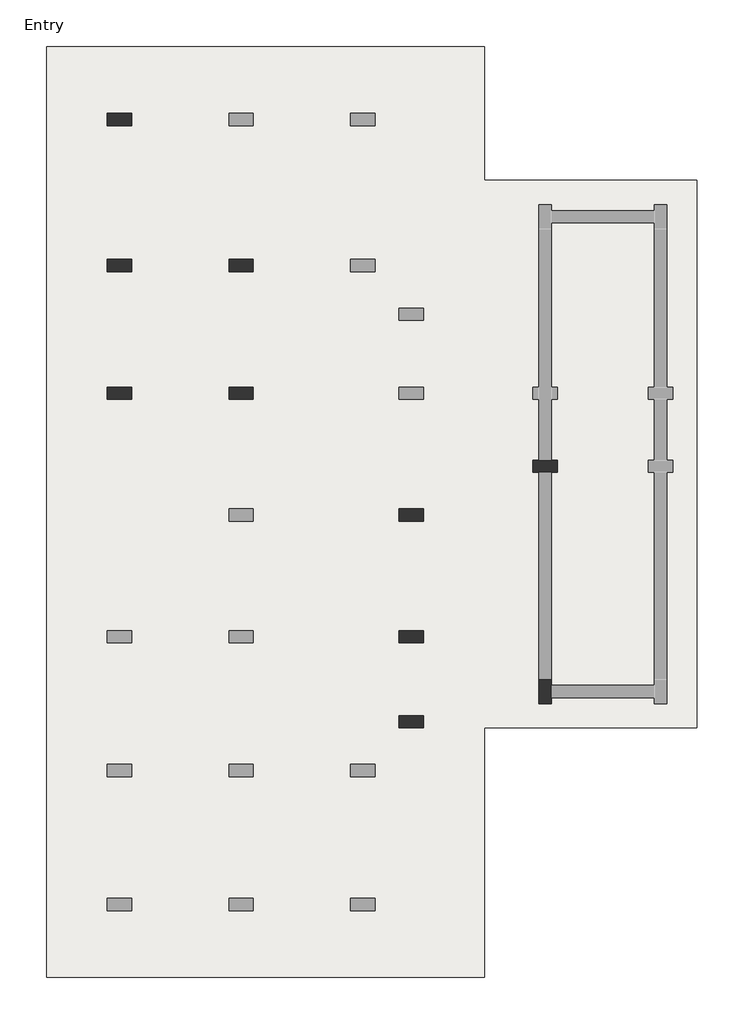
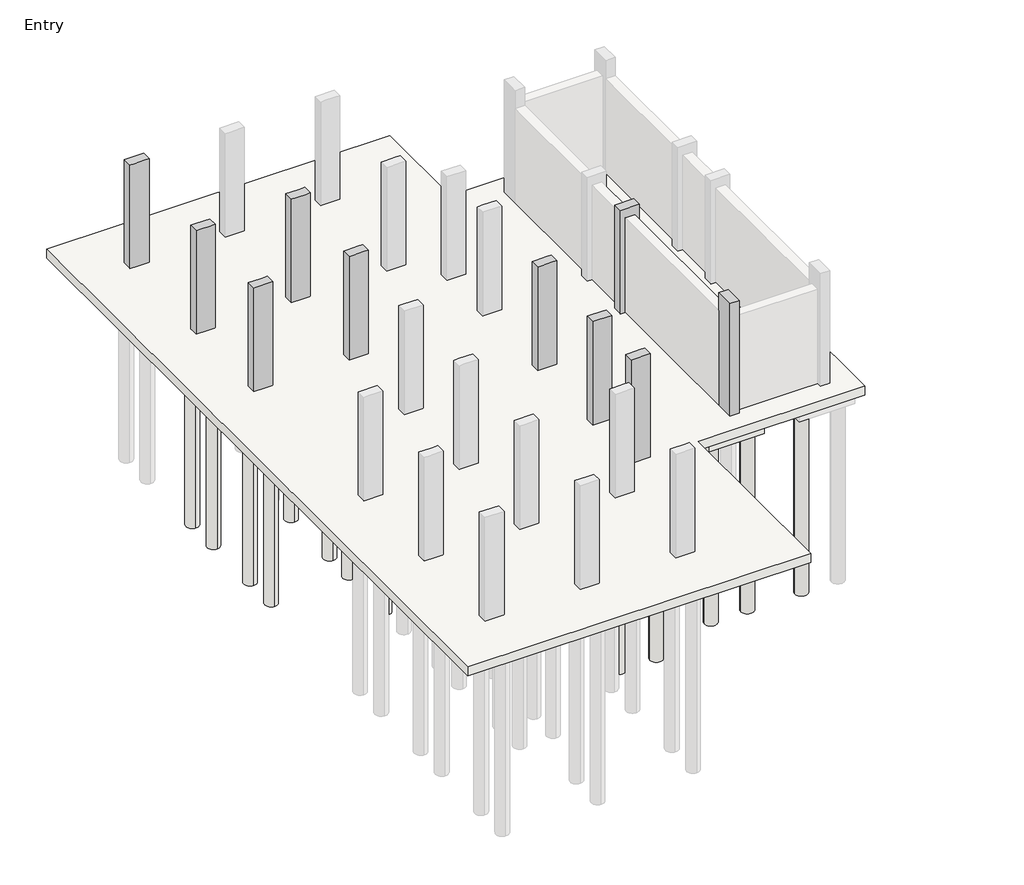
# One storey, part 2 of 3: 35 slabs, 10 columns.
"""IFC4 building model written with IfcOpenShell, lengths in millimetres."""

from ifc_helpers import new_model, si_unit, point, frame, frame_2d, origin, place, context, project, spatial, polyline, circle_curve, trimmed, segment, composite_curve, outline, extrude, faceted_brep, element, save

model = new_model("IFC4")

# Units and contexts
model_context = context("Model", 3, world=origin())
ifc_project = project(units=[si_unit("LENGTHUNIT", "METRE", prefix="MILLI")], contexts=[model_context])

# Site, building, storey
site = spatial("IfcSite", under=ifc_project)
building = spatial("IfcBuilding", under=site)
storey = spatial("IfcBuildingStorey", under=building, Name="Entry", Elevation=0.0)

# Columns
placement = place(None, origin())
element("IfcColumn", 1, ObjectType="Concrete-Rectangular-Column : 12 x 24", at=placement, inside=storey, context=model_context, shape_type="Brep", body=[
    faceted_brep([(-13471.1073204, 23769.0572372, 0.0), (-12861.5073204, 23769.0572372, 0.0), (-12861.5073204, 23464.2572372, 0.0), (-13471.1073204, 23464.2572372, 0.0), (-13471.1073204, 23769.0572372, 3505.2), (-12861.5073204, 23769.0572372, 3505.2), (-12861.5073204, 23769.0572372, 2895.6), (-12861.5073204, 23464.2572372, 3505.2), (-12861.5073204, 23464.2572372, 2895.6), (-13013.9073204, 23464.2572372, 3505.2), (-13318.7073204, 23464.2572372, 3505.2), (-13471.1073204, 23464.2572372, 3505.2)], [[[0, 1, 2, 3]], [[4, 5, 6, 1, 0]], [[5, 7, 8, 2, 1, 6]], [[7, 9, 10, 11, 3, 2, 8]], [[11, 4, 0, 3]], [[4, 11, 10, 9, 7, 5]]]),
])
element("IfcColumn", 2, ObjectType="Concrete-Rectangular-Column : 12 x 24", at=placement, inside=storey, context=model_context, shape_type="Brep", body=[
    faceted_brep([(-13471.1073204, 20111.4572372, 0.0), (-12861.5073204, 20111.4572372, 0.0), (-12861.5073204, 19806.6572372, 0.0), (-13471.1073204, 19806.6572372, 0.0), (-13471.1073204, 20111.4572372, 3505.2), (-13318.7073204, 20111.4572372, 3505.2), (-13013.9073204, 20111.4572372, 3505.2), (-12861.5073204, 20111.4572372, 3505.2), (-12861.5073204, 20111.4572372, 2895.6), (-12861.5073204, 19806.6572372, 3505.2), (-12861.5073204, 19806.6572372, 2895.6), (-13013.9073204, 19806.6572372, 3505.2), (-13318.7073204, 19806.6572372, 3505.2), (-13471.1073204, 19806.6572372, 3505.2)], [[[0, 1, 2, 3]], [[4, 5, 6, 7, 8, 1, 0]], [[7, 9, 10, 2, 1, 8]], [[9, 11, 12, 13, 3, 2, 10]], [[13, 4, 0, 3]], [[4, 13, 12, 11, 9, 7, 6, 5]]]),
])
element("IfcColumn", 3, ObjectType="Concrete-Rectangular-Column : 12 x 24", at=placement, inside=storey, context=model_context, shape_type="Brep", body=[
    faceted_brep([(-10423.1073204, 20111.4572372, 0.0), (-9813.5073204, 20111.4572372, 0.0), (-9813.5073204, 19806.6572372, 0.0), (-10423.1073204, 19806.6572372, 0.0), (-10423.1073204, 20111.4572372, 3505.2), (-10270.7073204, 20111.4572372, 3505.2), (-9965.9073204, 20111.4572372, 3505.2), (-9813.5073204, 20111.4572372, 3505.2), (-9813.5073204, 20111.4572372, 2895.6), (-10423.1073204, 20111.4572372, 2895.6), (-9813.5073204, 19806.6572372, 3505.2), (-9813.5073204, 19806.6572372, 2895.6), (-9965.9073204, 19806.6572372, 3505.2), (-10270.7073204, 19806.6572372, 3505.2), (-10423.1073204, 19806.6572372, 3505.2), (-10423.1073204, 19806.6572372, 2895.6)], [[[0, 1, 2, 3]], [[4, 5, 6, 7, 8, 1, 0, 9]], [[7, 10, 11, 2, 1, 8]], [[10, 12, 13, 14, 15, 3, 2, 11]], [[14, 4, 9, 0, 3, 15]], [[4, 14, 13, 12, 10, 7, 6, 5]]]),
])
element("IfcColumn", 4, ObjectType="Concrete-Rectangular-Column : 12 x 24", at=placement, inside=storey, context=model_context, shape_type="Brep", body=[
    faceted_brep([(-13471.1073204, 16911.0572372, 0.0), (-12861.5073204, 16911.0572372, 0.0), (-12861.5073204, 16606.2572372, 0.0), (-13471.1073204, 16606.2572372, 0.0), (-13471.1073204, 16911.0572372, 3505.2), (-13318.7073204, 16911.0572372, 3505.2), (-13013.9073204, 16911.0572372, 3505.2), (-12861.5073204, 16911.0572372, 3505.2), (-12861.5073204, 16911.0572372, 2895.6), (-12861.5073204, 16606.2572372, 3505.2), (-12861.5073204, 16606.2572372, 2895.6), (-13471.1073204, 16606.2572372, 3505.2)], [[[0, 1, 2, 3]], [[4, 5, 6, 7, 8, 1, 0]], [[7, 9, 10, 2, 1, 8]], [[9, 11, 3, 2, 10]], [[11, 4, 0, 3]], [[4, 11, 9, 7, 6, 5]]]),
])
element("IfcColumn", 5, ObjectType="Concrete-Rectangular-Column : 12 x 24", at=placement, inside=storey, context=model_context, shape_type="Brep", body=[
    faceted_brep([(-10423.1073204, 16911.0572372, 0.0), (-9813.5073204, 16911.0572372, 0.0), (-9813.5073204, 16606.2572372, 0.0), (-10423.1073204, 16606.2572372, 0.0), (-10423.1073204, 16911.0572372, 3505.2), (-10270.7073204, 16911.0572372, 3505.2), (-9965.9073204, 16911.0572372, 3505.2), (-9813.5073204, 16911.0572372, 3505.2), (-9813.5073204, 16911.0572372, 2895.6), (-10423.1073204, 16911.0572372, 2895.6), (-9813.5073204, 16606.2572372, 3505.2), (-9813.5073204, 16606.2572372, 2895.6), (-9965.9073204, 16606.2572372, 3505.2), (-10270.7073204, 16606.2572372, 3505.2), (-10423.1073204, 16606.2572372, 3505.2), (-10423.1073204, 16606.2572372, 2895.6)], [[[0, 1, 2, 3]], [[4, 5, 6, 7, 8, 1, 0, 9]], [[7, 10, 11, 2, 1, 8]], [[10, 12, 13, 14, 15, 3, 2, 11]], [[14, 4, 9, 0, 3, 15]], [[4, 14, 13, 12, 10, 7, 6, 5]]]),
])
element("IfcColumn", 6, ObjectType="Concrete-Rectangular-Column : 12 x 24", at=placement, inside=storey, context=model_context, shape_type="Brep", body=[
    faceted_brep([(-2803.8500241, 15082.2572372, 0.0), (-2651.4500241, 15082.2572372, 0.0), (-2346.6500241, 15082.2572372, 0.0), (-2194.2500241, 15082.2572372, 0.0), (-2194.2500241, 14777.4572372, 0.0), (-2346.6500241, 14777.4572372, 0.0), (-2651.4500241, 14777.4572372, 0.0), (-2803.8500241, 14777.4572372, 0.0), (-2803.8500241, 15082.2572372, 3505.2), (-2194.2500241, 15082.2572372, 3505.2), (-2194.2500241, 14777.4572372, 3505.2), (-2803.8500241, 14777.4572372, 3505.2)], [[[0, 1, 2, 3, 4, 5, 6, 7]], [[3, 2, 1, 0, 8, 9]], [[4, 3, 9, 10]], [[7, 6, 5, 4, 10, 11]], [[0, 7, 11, 8]], [[9, 8, 11, 10]]]),
])
element("IfcColumn", 7, ObjectType="Concrete-Rectangular-Column : 12 x 24", at=placement, inside=storey, context=model_context, shape_type="Brep", body=[
    faceted_brep([(-6156.6500241, 13863.0572372, 0.0), (-5547.0500241, 13863.0572372, 0.0), (-5547.0500241, 13558.2572372, 0.0), (-6156.6500241, 13558.2572372, 0.0), (-6156.6500241, 13863.0572372, 3505.2), (-6004.2500241, 13863.0572372, 3505.2), (-5699.4500241, 13863.0572372, 3505.2), (-5547.0500241, 13863.0572372, 3505.2), (-6156.6500241, 13863.0572372, 2895.6), (-5547.0500241, 13558.2572372, 3505.2), (-5699.4500241, 13558.2572372, 3505.2), (-6004.2500241, 13558.2572372, 3505.2), (-6156.6500241, 13558.2572372, 3505.2), (-6156.6500241, 13558.2572372, 2895.6)], [[[0, 1, 2, 3]], [[4, 5, 6, 7, 1, 0, 8]], [[7, 9, 2, 1]], [[9, 10, 11, 12, 13, 3, 2]], [[12, 4, 8, 0, 3, 13]], [[4, 12, 11, 10, 9, 7, 6, 5]]]),
])
element("IfcColumn", 8, ObjectType="Concrete-Rectangular-Column : 12 x 24", at=placement, inside=storey, context=model_context, shape_type="Brep", body=[
    faceted_brep([(-6156.6500241, 10815.0572372, 0.0), (-5547.0500241, 10815.0572372, 0.0), (-5547.0500241, 10510.2572372, 0.0), (-6156.6500241, 10510.2572372, 0.0), (-6156.6500241, 10815.0572372, 3505.2), (-6004.2500241, 10815.0572372, 3505.2), (-5699.4500241, 10815.0572372, 3505.2), (-5547.0500241, 10815.0572372, 3505.2), (-6156.6500241, 10815.0572372, 2895.6), (-5547.0500241, 10510.2572372, 3505.2), (-5699.4500241, 10510.2572372, 3505.2), (-6004.2500241, 10510.2572372, 3505.2), (-6156.6500241, 10510.2572372, 3505.2), (-6156.6500241, 10510.2572372, 2895.6)], [[[0, 1, 2, 3]], [[4, 5, 6, 7, 1, 0, 8]], [[7, 9, 2, 1]], [[9, 10, 11, 12, 13, 3, 2]], [[12, 4, 8, 0, 3, 13]], [[4, 12, 11, 10, 9, 7, 6, 5]]]),
])
element("IfcColumn", 9, ObjectType="Concrete-Rectangular-Column : 12 x 24", at=placement, inside=storey, context=model_context, shape_type="Brep", body=[
    faceted_brep([(-6156.6500241, 8681.4572372, 0.0), (-5547.0500241, 8681.4572372, 0.0), (-5547.0500241, 8376.6572372, 0.0), (-6156.6500241, 8376.6572372, 0.0), (-6156.6500241, 8681.4572372, 3505.2), (-6004.2500241, 8681.4572372, 3505.2), (-5699.4500241, 8681.4572372, 3505.2), (-5547.0500241, 8681.4572372, 3505.2), (-6156.6500241, 8681.4572372, 2895.6), (-5547.0500241, 8376.6572372, 3505.2), (-6156.6500241, 8376.6572372, 3505.2), (-6156.6500241, 8376.6572372, 2895.6)], [[[0, 1, 2, 3]], [[4, 5, 6, 7, 1, 0, 8]], [[7, 9, 2, 1]], [[9, 10, 11, 3, 2]], [[10, 4, 8, 0, 3, 11]], [[4, 10, 9, 7, 6, 5]]]),
])
element("IfcColumn", 10, ObjectType="Concrete-Rectangular-Column : 12 x 24", at=placement, inside=storey, context=model_context, shape_type="Brep", body=[
    faceted_brep([(-2346.6500241, 9595.8572372, 0.0), (-2346.6500241, 9443.4572372, 0.0), (-2346.6500241, 9138.6572372, 0.0), (-2346.6500241, 8986.2572372, 0.0), (-2651.4500241, 8986.2572372, 0.0), (-2651.4500241, 9595.8572372, 0.0), (-2346.6500241, 9595.8572372, 3810.0), (-2346.6500241, 8986.2572372, 3810.0), (-2346.6500241, 9595.8572372, 3200.4), (-2651.4500241, 8986.2572372, 3810.0), (-2651.4500241, 9595.8572372, 3810.0), (-2651.4500241, 9595.8572372, 3200.4)], [[[0, 1, 2, 3, 4, 5]], [[6, 7, 3, 2, 1, 0, 8]], [[7, 9, 4, 3]], [[9, 10, 11, 5, 4]], [[10, 6, 8, 0, 5, 11]], [[6, 10, 9, 7]]]),
])

# Slabs
element("IfcSlab", 11, ObjectType="12\" Foundation Slab", at=placement, inside=storey, context=model_context, shape_type="SweptSolid", body=[
    extrude(outline(polyline([(-4023.0500241, 25445.4572372), (-4023.0500241, 22092.6572372), (1309.1860546, 22092.6572372), (1309.1860546, 8376.6572372), (-4023.0500241, 8376.6572372), (-4023.0500241, 2128.2572372), (-14995.1073204, 2128.2572372), (-14995.1073204, 25445.4572372), (-4023.0500241, 25445.4572372)])), frame((0.0, 0.0, -304.8), z_axis=(0.0, 0.0, 1.0), x_axis=(1.0, 0.0, 0.0)), (0.0, 0.0, 1.0), 304.8),
])
element("IfcSlab", 12, ObjectType="Pile Cap-2 Pile : 31\"x61\"x35\"", at=placement, inside=storey, context=model_context, shape_type="SweptSolid", body=[
    extrude(outline(polyline([(-13572.7073204, 24505.6572372), (-12759.9073204, 24505.6572372), (-12759.9073204, 22727.6572372), (-13572.7073204, 22727.6572372), (-13572.7073204, 24505.6572372)])), frame((0.0, 0.0, -889.0), z_axis=(0.0, 0.0, 1.0), x_axis=(1.0, 0.0, 0.0)), (0.0, 0.0, 1.0), 584.2),
])
element("IfcSlab", 13, ObjectType="Pile Cap-2 Pile : 31\"x61\"x35\"", at=placement, inside=storey, context=model_context, shape_type="SweptSolid", body=[
    extrude(outline(polyline([(-13572.7073204, 20848.0572372), (-12759.9073204, 20848.0572372), (-12759.9073204, 19070.0572372), (-13572.7073204, 19070.0572372), (-13572.7073204, 20848.0572372)])), frame((0.0, 0.0, -889.0), z_axis=(0.0, 0.0, 1.0), x_axis=(1.0, 0.0, 0.0)), (0.0, 0.0, 1.0), 584.2),
])
element("IfcSlab", 14, ObjectType="Pile Cap-2 Pile : 31\"x61\"x35\"", at=placement, inside=storey, context=model_context, shape_type="SweptSolid", body=[
    extrude(outline(polyline([(-13572.7073204, 17647.6572372), (-12759.9073204, 17647.6572372), (-12759.9073204, 15869.6572372), (-13572.7073204, 15869.6572372), (-13572.7073204, 17647.6572372)])), frame((0.0, 0.0, -889.0), z_axis=(0.0, 0.0, 1.0), x_axis=(1.0, 0.0, 0.0)), (0.0, 0.0, 1.0), 584.2),
])
element("IfcSlab", 15, ObjectType="Pile Cap-2 Pile : 31\"x61\"x35\"", at=placement, inside=storey, context=model_context, shape_type="SweptSolid", body=[
    extrude(outline(polyline([(-6258.2500241, 14599.6572372), (-5445.4500241, 14599.6572372), (-5445.4500241, 12821.6572372), (-6258.2500241, 12821.6572372), (-6258.2500241, 14599.6572372)])), frame((0.0, 0.0, -889.0), z_axis=(0.0, 0.0, 1.0), x_axis=(1.0, 0.0, 0.0)), (0.0, 0.0, 1.0), 584.2),
])
element("IfcSlab", 16, ObjectType="Pile Cap-2 Pile : 31\"x61\"x35\"", at=placement, inside=storey, context=model_context, shape_type="SweptSolid", body=[
    extrude(outline(polyline([(-6258.2500241, 11551.6572372), (-5445.4500241, 11551.6572372), (-5445.4500241, 9773.6572372), (-6258.2500241, 9773.6572372), (-6258.2500241, 11551.6572372)])), frame((0.0, 0.0, -889.0), z_axis=(0.0, 0.0, 1.0), x_axis=(1.0, 0.0, 0.0)), (0.0, 0.0, 1.0), 584.2),
])
element("IfcSlab", 17, ObjectType="Pile Cap-2 Pile : 31\"x61\"x35\"", at=placement, inside=storey, context=model_context, shape_type="SweptSolid", body=[
    extrude(outline(polyline([(-2905.4500241, 15818.8572372), (-2092.6500241, 15818.8572372), (-2092.6500241, 14040.8572372), (-2905.4500241, 14040.8572372), (-2905.4500241, 15818.8572372)])), frame((0.0, 0.0, -889.0), z_axis=(0.0, 0.0, 1.0), x_axis=(1.0, 0.0, 0.0)), (0.0, 0.0, 1.0), 584.2),
])
element("IfcSlab", 18, ObjectType="Pile Cap-2 Pile : 31\"x61\"x35\"", at=placement, inside=storey, context=model_context, shape_type="SweptSolid", body=[
    extrude(outline(polyline([(-1610.0500241, 9697.4572372), (-1610.0500241, 8884.6572372), (-3388.0500241, 8884.6572372), (-3388.0500241, 9697.4572372), (-1610.0500241, 9697.4572372)])), frame((0.0, 0.0, -889.0), z_axis=(0.0, 0.0, 1.0), x_axis=(1.0, 0.0, 0.0)), (0.0, 0.0, 1.0), 584.2),
])
element("IfcSlab", 19, ObjectType="Pile Cap-2 Pile : 31\"x61\"x35\"", at=placement, inside=storey, context=model_context, shape_type="SweptSolid", body=[
    extrude(outline(polyline([(-4962.8500241, 8935.4572372), (-4962.8500241, 8122.6572372), (-6664.6500241, 8122.6572372), (-6664.6500241, 8198.8572372), (-6740.8500241, 8198.8572372), (-6740.8500241, 8935.4572372), (-4962.8500241, 8935.4572372)])), frame((0.0, 0.0, -889.0), z_axis=(0.0, 0.0, 1.0), x_axis=(1.0, 0.0, 0.0)), (0.0, 0.0, 1.0), 584.2),
])
element("IfcSlab", 20, ObjectType="Pile Cap-4 Pile : 72\"x72\"x35\"", at=placement, inside=storey, context=model_context, shape_type="SweptSolid", body=[
    extrude(outline(polyline([(-11032.7073204, 20873.4572372), (-9203.9073204, 20873.4572372), (-9203.9073204, 19044.6572372), (-11032.7073204, 19044.6572372), (-11032.7073204, 20873.4572372)])), frame((0.0, 0.0, -889.0), z_axis=(0.0, 0.0, 1.0), x_axis=(1.0, 0.0, 0.0)), (0.0, 0.0, 1.0), 584.2),
])
element("IfcSlab", 21, ObjectType="Pile Cap-4 Pile : 72\"x72\"x35\"", at=placement, inside=storey, context=model_context, shape_type="SweptSolid", body=[
    extrude(outline(polyline([(-11032.7073204, 17673.0572372), (-9203.9073204, 17673.0572372), (-9203.9073204, 15844.2572372), (-11032.7073204, 15844.2572372), (-11032.7073204, 17673.0572372)])), frame((0.0, 0.0, -889.0), z_axis=(0.0, 0.0, 1.0), x_axis=(1.0, 0.0, 0.0)), (0.0, 0.0, 1.0), 584.2),
])
element("IfcSlab", 22, ObjectType="Pile-Steel Pipe : 16\" Diameter", at=placement, inside=storey, context=model_context, shape_type="SweptSolid", body=[
    extrude(outline(composite_curve([segment(trimmed(circle_curve(frame_2d((-10651.7073204, 19425.6572372)), 203.2), [point((-10651.7073204, 19222.4572372))], [point((-10651.7073204, 19628.8572372))], False, "CARTESIAN"), True, "CONTINUOUS"), segment(trimmed(circle_curve(frame_2d((-10651.7073204, 19425.6572372)), 203.2), [point((-10651.7073204, 19628.8572372))], [point((-10651.7073204, 19222.4572372))], False, "CARTESIAN"), True, "CONTINUOUS")], self_intersect=False)), frame((0.0, 0.0, -6985.0), z_axis=(0.0, 0.0, 1.0), x_axis=(1.0, 0.0, 0.0)), (0.0, 0.0, 1.0), 6096.0),
])
element("IfcSlab", 23, ObjectType="Pile-Steel Pipe : 16\" Diameter", at=placement, inside=storey, context=model_context, shape_type="SweptSolid", body=[
    extrude(outline(composite_curve([segment(trimmed(circle_curve(frame_2d((-9584.9073204, 19425.6572372)), 203.2), [point((-9584.9073204, 19222.4572372))], [point((-9584.9073204, 19628.8572372))], False, "CARTESIAN"), True, "CONTINUOUS"), segment(trimmed(circle_curve(frame_2d((-9584.9073204, 19425.6572372)), 203.2), [point((-9584.9073204, 19628.8572372))], [point((-9584.9073204, 19222.4572372))], False, "CARTESIAN"), True, "CONTINUOUS")], self_intersect=False)), frame((0.0, 0.0, -6985.0), z_axis=(0.0, 0.0, 1.0), x_axis=(1.0, 0.0, 0.0)), (0.0, 0.0, 1.0), 6096.0),
])
element("IfcSlab", 24, ObjectType="Pile-Steel Pipe : 16\" Diameter", at=placement, inside=storey, context=model_context, shape_type="SweptSolid", body=[
    extrude(outline(composite_curve([segment(trimmed(circle_curve(frame_2d((-10651.7073204, 16225.2572372)), 203.2), [point((-10651.7073204, 16022.0572372))], [point((-10651.7073204, 16428.4572372))], False, "CARTESIAN"), True, "CONTINUOUS"), segment(trimmed(circle_curve(frame_2d((-10651.7073204, 16225.2572372)), 203.2), [point((-10651.7073204, 16428.4572372))], [point((-10651.7073204, 16022.0572372))], False, "CARTESIAN"), True, "CONTINUOUS")], self_intersect=False)), frame((0.0, 0.0, -6985.0), z_axis=(0.0, 0.0, 1.0), x_axis=(1.0, 0.0, 0.0)), (0.0, 0.0, 1.0), 6096.0),
])
element("IfcSlab", 25, ObjectType="Pile-Steel Pipe : 16\" Diameter", at=placement, inside=storey, context=model_context, shape_type="SweptSolid", body=[
    extrude(outline(composite_curve([segment(trimmed(circle_curve(frame_2d((-9584.9073204, 16225.2572372)), 203.2), [point((-9584.9073204, 16022.0572372))], [point((-9584.9073204, 16428.4572372))], False, "CARTESIAN"), True, "CONTINUOUS"), segment(trimmed(circle_curve(frame_2d((-9584.9073204, 16225.2572372)), 203.2), [point((-9584.9073204, 16428.4572372))], [point((-9584.9073204, 16022.0572372))], False, "CARTESIAN"), True, "CONTINUOUS")], self_intersect=False)), frame((0.0, 0.0, -6985.0), z_axis=(0.0, 0.0, 1.0), x_axis=(1.0, 0.0, 0.0)), (0.0, 0.0, 1.0), 6096.0),
])
element("IfcSlab", 26, ObjectType="Pile-Steel Pipe : 16\" Diameter", at=placement, inside=storey, context=model_context, shape_type="SweptSolid", body=[
    extrude(outline(composite_curve([segment(trimmed(circle_curve(frame_2d((-9584.9073204, 17292.0572372)), 203.2), [point((-9584.9073204, 17088.8572372))], [point((-9584.9073204, 17495.2572372))], False, "CARTESIAN"), True, "CONTINUOUS"), segment(trimmed(circle_curve(frame_2d((-9584.9073204, 17292.0572372)), 203.2), [point((-9584.9073204, 17495.2572372))], [point((-9584.9073204, 17088.8572372))], False, "CARTESIAN"), True, "CONTINUOUS")], self_intersect=False)), frame((0.0, 0.0, -6985.0), z_axis=(0.0, 0.0, 1.0), x_axis=(1.0, 0.0, 0.0)), (0.0, 0.0, 1.0), 6096.0),
])
element("IfcSlab", 27, ObjectType="Pile-Steel Pipe : 16\" Diameter", at=placement, inside=storey, context=model_context, shape_type="SweptSolid", body=[
    extrude(outline(composite_curve([segment(trimmed(circle_curve(frame_2d((-10651.7073204, 17292.0572372)), 203.2), [point((-10651.7073204, 17088.8572372))], [point((-10651.7073204, 17495.2572372))], False, "CARTESIAN"), True, "CONTINUOUS"), segment(trimmed(circle_curve(frame_2d((-10651.7073204, 17292.0572372)), 203.2), [point((-10651.7073204, 17495.2572372))], [point((-10651.7073204, 17088.8572372))], False, "CARTESIAN"), True, "CONTINUOUS")], self_intersect=False)), frame((0.0, 0.0, -6985.0), z_axis=(0.0, 0.0, 1.0), x_axis=(1.0, 0.0, 0.0)), (0.0, 0.0, 1.0), 6096.0),
])
element("IfcSlab", 28, ObjectType="Pile-Steel Pipe : 16\" Diameter", at=placement, inside=storey, context=model_context, shape_type="SweptSolid", body=[
    extrude(outline(composite_curve([segment(trimmed(circle_curve(frame_2d((-9584.9073204, 13177.2572372)), 203.2), [point((-9584.9073204, 12974.0572372))], [point((-9584.9073204, 13380.4572372))], False, "CARTESIAN"), True, "CONTINUOUS"), segment(trimmed(circle_curve(frame_2d((-9584.9073204, 13177.2572372)), 203.2), [point((-9584.9073204, 13380.4572372))], [point((-9584.9073204, 12974.0572372))], False, "CARTESIAN"), True, "CONTINUOUS")], self_intersect=False)), frame((0.0, 0.0, -6985.0), z_axis=(0.0, 0.0, 1.0), x_axis=(1.0, 0.0, 0.0)), (0.0, 0.0, 1.0), 6096.0),
])
element("IfcSlab", 29, ObjectType="Pile-Steel Pipe : 16\" Diameter", at=placement, inside=storey, context=model_context, shape_type="SweptSolid", body=[
    extrude(outline(composite_curve([segment(trimmed(circle_curve(frame_2d((-9584.9073204, 14244.0572372)), 203.2), [point((-9584.9073204, 14040.8572372))], [point((-9584.9073204, 14447.2572372))], False, "CARTESIAN"), True, "CONTINUOUS"), segment(trimmed(circle_curve(frame_2d((-9584.9073204, 14244.0572372)), 203.2), [point((-9584.9073204, 14447.2572372))], [point((-9584.9073204, 14040.8572372))], False, "CARTESIAN"), True, "CONTINUOUS")], self_intersect=False)), frame((0.0, 0.0, -6985.0), z_axis=(0.0, 0.0, 1.0), x_axis=(1.0, 0.0, 0.0)), (0.0, 0.0, 1.0), 6096.0),
])
element("IfcSlab", 30, ObjectType="Pile-Steel Pipe : 16\" Diameter", at=placement, inside=storey, context=model_context, shape_type="SweptSolid", body=[
    extrude(outline(composite_curve([segment(trimmed(circle_curve(frame_2d((-10651.7073204, 14244.0572372)), 203.2), [point((-10651.7073204, 14040.8572372))], [point((-10651.7073204, 14447.2572372))], False, "CARTESIAN"), True, "CONTINUOUS"), segment(trimmed(circle_curve(frame_2d((-10651.7073204, 14244.0572372)), 203.2), [point((-10651.7073204, 14447.2572372))], [point((-10651.7073204, 14040.8572372))], False, "CARTESIAN"), True, "CONTINUOUS")], self_intersect=False)), frame((0.0, 0.0, -6985.0), z_axis=(0.0, 0.0, 1.0), x_axis=(1.0, 0.0, 0.0)), (0.0, 0.0, 1.0), 6096.0),
])
element("IfcSlab", 31, ObjectType="Pile-Steel Pipe : 16\" Diameter", at=placement, inside=storey, context=model_context, shape_type="SweptSolid", body=[
    extrude(outline(composite_curve([segment(trimmed(circle_curve(frame_2d((-13166.3073204, 19374.8572372)), 203.2), [point((-13166.3073204, 19171.6572372))], [point((-13166.3073204, 19578.0572372))], False, "CARTESIAN"), True, "CONTINUOUS"), segment(trimmed(circle_curve(frame_2d((-13166.3073204, 19374.8572372)), 203.2), [point((-13166.3073204, 19578.0572372))], [point((-13166.3073204, 19171.6572372))], False, "CARTESIAN"), True, "CONTINUOUS")], self_intersect=False)), frame((0.0, 0.0, -6985.0), z_axis=(0.0, 0.0, 1.0), x_axis=(1.0, 0.0, 0.0)), (0.0, 0.0, 1.0), 6096.0),
])
element("IfcSlab", 32, ObjectType="Pile-Steel Pipe : 16\" Diameter", at=placement, inside=storey, context=model_context, shape_type="SweptSolid", body=[
    extrude(outline(composite_curve([segment(trimmed(circle_curve(frame_2d((-13166.3073204, 20543.2572372)), 203.2), [point((-13166.3073204, 20340.0572372))], [point((-13166.3073204, 20746.4572372))], False, "CARTESIAN"), True, "CONTINUOUS"), segment(trimmed(circle_curve(frame_2d((-13166.3073204, 20543.2572372)), 203.2), [point((-13166.3073204, 20746.4572372))], [point((-13166.3073204, 20340.0572372))], False, "CARTESIAN"), True, "CONTINUOUS")], self_intersect=False)), frame((0.0, 0.0, -6985.0), z_axis=(0.0, 0.0, 1.0), x_axis=(1.0, 0.0, 0.0)), (0.0, 0.0, 1.0), 6096.0),
])
element("IfcSlab", 33, ObjectType="Pile-Steel Pipe : 16\" Diameter", at=placement, inside=storey, context=model_context, shape_type="SweptSolid", body=[
    extrude(outline(composite_curve([segment(trimmed(circle_curve(frame_2d((-13166.3073204, 16174.4572372)), 203.2), [point((-13166.3073204, 15971.2572372))], [point((-13166.3073204, 16377.6572372))], False, "CARTESIAN"), True, "CONTINUOUS"), segment(trimmed(circle_curve(frame_2d((-13166.3073204, 16174.4572372)), 203.2), [point((-13166.3073204, 16377.6572372))], [point((-13166.3073204, 15971.2572372))], False, "CARTESIAN"), True, "CONTINUOUS")], self_intersect=False)), frame((0.0, 0.0, -6985.0), z_axis=(0.0, 0.0, 1.0), x_axis=(1.0, 0.0, 0.0)), (0.0, 0.0, 1.0), 6096.0),
])
element("IfcSlab", 34, ObjectType="Pile-Steel Pipe : 16\" Diameter", at=placement, inside=storey, context=model_context, shape_type="SweptSolid", body=[
    extrude(outline(composite_curve([segment(trimmed(circle_curve(frame_2d((-13166.3073204, 17342.8572372)), 203.2), [point((-13166.3073204, 17139.6572372))], [point((-13166.3073204, 17546.0572372))], False, "CARTESIAN"), True, "CONTINUOUS"), segment(trimmed(circle_curve(frame_2d((-13166.3073204, 17342.8572372)), 203.2), [point((-13166.3073204, 17546.0572372))], [point((-13166.3073204, 17139.6572372))], False, "CARTESIAN"), True, "CONTINUOUS")], self_intersect=False)), frame((0.0, 0.0, -6985.0), z_axis=(0.0, 0.0, 1.0), x_axis=(1.0, 0.0, 0.0)), (0.0, 0.0, 1.0), 6096.0),
])
element("IfcSlab", 35, ObjectType="Pile-Steel Pipe : 16\" Diameter", at=placement, inside=storey, context=model_context, shape_type="SweptSolid", body=[
    extrude(outline(composite_curve([segment(trimmed(circle_curve(frame_2d((-5851.8500241, 13126.4572372)), 203.2), [point((-5851.8500241, 12923.2572372))], [point((-5851.8500241, 13329.6572372))], False, "CARTESIAN"), True, "CONTINUOUS"), segment(trimmed(circle_curve(frame_2d((-5851.8500241, 13126.4572372)), 203.2), [point((-5851.8500241, 13329.6572372))], [point((-5851.8500241, 12923.2572372))], False, "CARTESIAN"), True, "CONTINUOUS")], self_intersect=False)), frame((0.0, 0.0, -6985.0), z_axis=(0.0, 0.0, 1.0), x_axis=(1.0, 0.0, 0.0)), (0.0, 0.0, 1.0), 6096.0),
])
element("IfcSlab", 36, ObjectType="Pile-Steel Pipe : 16\" Diameter", at=placement, inside=storey, context=model_context, shape_type="SweptSolid", body=[
    extrude(outline(composite_curve([segment(trimmed(circle_curve(frame_2d((-5851.8500241, 14294.8572372)), 203.2), [point((-5851.8500241, 14091.6572372))], [point((-5851.8500241, 14498.0572372))], False, "CARTESIAN"), True, "CONTINUOUS"), segment(trimmed(circle_curve(frame_2d((-5851.8500241, 14294.8572372)), 203.2), [point((-5851.8500241, 14498.0572372))], [point((-5851.8500241, 14091.6572372))], False, "CARTESIAN"), True, "CONTINUOUS")], self_intersect=False)), frame((0.0, 0.0, -6985.0), z_axis=(0.0, 0.0, 1.0), x_axis=(1.0, 0.0, 0.0)), (0.0, 0.0, 1.0), 6096.0),
])
element("IfcSlab", 37, ObjectType="Pile-Steel Pipe : 16\" Diameter", at=placement, inside=storey, context=model_context, shape_type="SweptSolid", body=[
    extrude(outline(composite_curve([segment(trimmed(circle_curve(frame_2d((-5851.8500241, 10078.4572372)), 203.2), [point((-5851.8500241, 9875.2572372))], [point((-5851.8500241, 10281.6572372))], False, "CARTESIAN"), True, "CONTINUOUS"), segment(trimmed(circle_curve(frame_2d((-5851.8500241, 10078.4572372)), 203.2), [point((-5851.8500241, 10281.6572372))], [point((-5851.8500241, 9875.2572372))], False, "CARTESIAN"), True, "CONTINUOUS")], self_intersect=False)), frame((0.0, 0.0, -6985.0), z_axis=(0.0, 0.0, 1.0), x_axis=(1.0, 0.0, 0.0)), (0.0, 0.0, 1.0), 6096.0),
])
element("IfcSlab", 38, ObjectType="Pile-Steel Pipe : 16\" Diameter", at=placement, inside=storey, context=model_context, shape_type="SweptSolid", body=[
    extrude(outline(composite_curve([segment(trimmed(circle_curve(frame_2d((-5851.8500241, 11246.8572372)), 203.2), [point((-5851.8500241, 11043.6572372))], [point((-5851.8500241, 11450.0572372))], False, "CARTESIAN"), True, "CONTINUOUS"), segment(trimmed(circle_curve(frame_2d((-5851.8500241, 11246.8572372)), 203.2), [point((-5851.8500241, 11450.0572372))], [point((-5851.8500241, 11043.6572372))], False, "CARTESIAN"), True, "CONTINUOUS")], self_intersect=False)), frame((0.0, 0.0, -6985.0), z_axis=(0.0, 0.0, 1.0), x_axis=(1.0, 0.0, 0.0)), (0.0, 0.0, 1.0), 6096.0),
])
element("IfcSlab", 39, ObjectType="Pile-Steel Pipe : 16\" Diameter", at=placement, inside=storey, context=model_context, shape_type="SweptSolid", body=[
    extrude(outline(composite_curve([segment(trimmed(circle_curve(frame_2d((-2499.0500241, 14345.6572372)), 203.2), [point((-2499.0500241, 14142.4572372))], [point((-2499.0500241, 14548.8572372))], False, "CARTESIAN"), True, "CONTINUOUS"), segment(trimmed(circle_curve(frame_2d((-2499.0500241, 14345.6572372)), 203.2), [point((-2499.0500241, 14548.8572372))], [point((-2499.0500241, 14142.4572372))], False, "CARTESIAN"), True, "CONTINUOUS")], self_intersect=False)), frame((0.0, 0.0, -6985.0), z_axis=(0.0, 0.0, 1.0), x_axis=(1.0, 0.0, 0.0)), (0.0, 0.0, 1.0), 6096.0),
])
element("IfcSlab", 40, ObjectType="Pile-Steel Pipe : 16\" Diameter", at=placement, inside=storey, context=model_context, shape_type="SweptSolid", body=[
    extrude(outline(composite_curve([segment(trimmed(circle_curve(frame_2d((-2499.0500241, 15514.0572372)), 203.2), [point((-2499.0500241, 15310.8572372))], [point((-2499.0500241, 15717.2572372))], False, "CARTESIAN"), True, "CONTINUOUS"), segment(trimmed(circle_curve(frame_2d((-2499.0500241, 15514.0572372)), 203.2), [point((-2499.0500241, 15717.2572372))], [point((-2499.0500241, 15310.8572372))], False, "CARTESIAN"), True, "CONTINUOUS")], self_intersect=False)), frame((0.0, 0.0, -6985.0), z_axis=(0.0, 0.0, 1.0), x_axis=(1.0, 0.0, 0.0)), (0.0, 0.0, 1.0), 6096.0),
])
element("IfcSlab", 41, ObjectType="Pile-Steel Pipe : 16\" Diameter", at=placement, inside=storey, context=model_context, shape_type="SweptSolid", body=[
    extrude(outline(composite_curve([segment(trimmed(circle_curve(frame_2d((-3083.2500241, 9291.0572372)), 203.2), [point((-3286.4500241, 9291.0572372))], [point((-2880.0500241, 9291.0572372))], False, "CARTESIAN"), True, "CONTINUOUS"), segment(trimmed(circle_curve(frame_2d((-3083.2500241, 9291.0572372)), 203.2), [point((-2880.0500241, 9291.0572372))], [point((-3286.4500241, 9291.0572372))], False, "CARTESIAN"), True, "CONTINUOUS")], self_intersect=False)), frame((0.0, 0.0, -6985.0), z_axis=(0.0, 0.0, 1.0), x_axis=(1.0, 0.0, 0.0)), (0.0, 0.0, 1.0), 6096.0),
])
element("IfcSlab", 42, ObjectType="Pile-Steel Pipe : 16\" Diameter", at=placement, inside=storey, context=model_context, shape_type="SweptSolid", body=[
    extrude(outline(composite_curve([segment(trimmed(circle_curve(frame_2d((-1914.8500241, 9291.0572372)), 203.2), [point((-2118.0500241, 9291.0572372))], [point((-1711.6500241, 9291.0572372))], False, "CARTESIAN"), True, "CONTINUOUS"), segment(trimmed(circle_curve(frame_2d((-1914.8500241, 9291.0572372)), 203.2), [point((-1711.6500241, 9291.0572372))], [point((-2118.0500241, 9291.0572372))], False, "CARTESIAN"), True, "CONTINUOUS")], self_intersect=False)), frame((0.0, 0.0, -6985.0), z_axis=(0.0, 0.0, 1.0), x_axis=(1.0, 0.0, 0.0)), (0.0, 0.0, 1.0), 6096.0),
])
element("IfcSlab", 43, ObjectType="Pile-Steel Pipe : 16\" Diameter", at=placement, inside=storey, context=model_context, shape_type="SweptSolid", body=[
    extrude(outline(composite_curve([segment(trimmed(circle_curve(frame_2d((-189.4139454, 9291.0572372)), 203.2), [point((-392.6139454, 9291.0572372))], [point((13.7860546, 9291.0572372))], False, "CARTESIAN"), True, "CONTINUOUS"), segment(trimmed(circle_curve(frame_2d((-189.4139454, 9291.0572372)), 203.2), [point((13.7860546, 9291.0572372))], [point((-392.6139454, 9291.0572372))], False, "CARTESIAN"), True, "CONTINUOUS")], self_intersect=False)), frame((0.0, 0.0, -6985.0), z_axis=(0.0, 0.0, 1.0), x_axis=(1.0, 0.0, 0.0)), (0.0, 0.0, 1.0), 6096.0),
])
element("IfcSlab", 44, ObjectType="Pile-Steel Pipe : 16\" Diameter", at=placement, inside=storey, context=model_context, shape_type="SweptSolid", body=[
    extrude(outline(composite_curve([segment(trimmed(circle_curve(frame_2d((-6436.0500241, 8529.0572372)), 203.2), [point((-6639.2500241, 8529.0572372))], [point((-6232.8500241, 8529.0572372))], False, "CARTESIAN"), True, "CONTINUOUS"), segment(trimmed(circle_curve(frame_2d((-6436.0500241, 8529.0572372)), 203.2), [point((-6232.8500241, 8529.0572372))], [point((-6639.2500241, 8529.0572372))], False, "CARTESIAN"), True, "CONTINUOUS")], self_intersect=False)), frame((0.0, 0.0, -6985.0), z_axis=(0.0, 0.0, 1.0), x_axis=(1.0, 0.0, 0.0)), (0.0, 0.0, 1.0), 6096.0),
])
element("IfcSlab", 45, ObjectType="Pile-Steel Pipe : 16\" Diameter", at=placement, inside=storey, context=model_context, shape_type="SweptSolid", body=[
    extrude(outline(composite_curve([segment(trimmed(circle_curve(frame_2d((-5267.6500241, 8529.0572372)), 203.2), [point((-5470.8500241, 8529.0572372))], [point((-5064.4500241, 8529.0572372))], False, "CARTESIAN"), True, "CONTINUOUS"), segment(trimmed(circle_curve(frame_2d((-5267.6500241, 8529.0572372)), 203.2), [point((-5064.4500241, 8529.0572372))], [point((-5470.8500241, 8529.0572372))], False, "CARTESIAN"), True, "CONTINUOUS")], self_intersect=False)), frame((0.0, 0.0, -6985.0), z_axis=(0.0, 0.0, 1.0), x_axis=(1.0, 0.0, 0.0)), (0.0, 0.0, 1.0), 6096.0),
])

save(model, "model.ifc")
